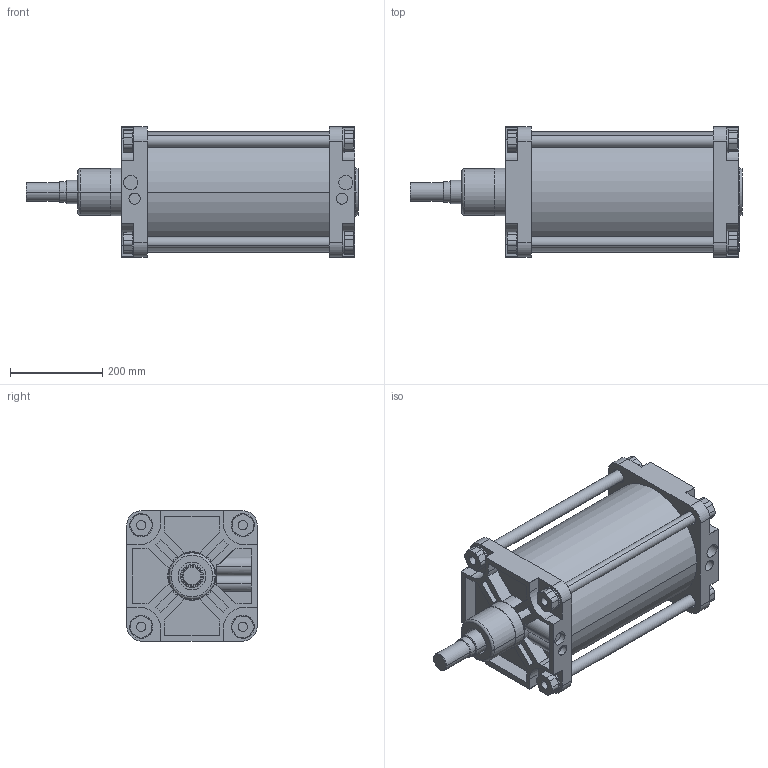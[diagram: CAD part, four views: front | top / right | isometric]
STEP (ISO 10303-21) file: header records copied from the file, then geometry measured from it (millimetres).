
FILE_DESCRIPTION(('CATIA V5 STEP Exchange'),'2;1');
FILE_NAME('D:\stp file for catalog\PNC\250\PNC 250-50-300.stp','2015-10-25T14:08:19+00:00',('none'),('none'),'Version 5-6 Release 2012','CATIA V5 STEP AP203','none');
FILE_SCHEMA(('CONFIG_CONTROL_DESIGN'));
Length unit declared in the file: millimetre
Products named in the file (1): PNC 250-50-300-00
Assembly tree (2 placements, depth 2):
  PNC 250-50-300-00
    #58
    #15305
Bounding box: 718 x 282 x 282 mm (x, y, z)
Volume: 11729595.9 mm3; surface area: 1630712.8 mm2
Topology: 2 solids, 2 shells, 556 faces, 1428 edges, 944 vertices
Faces by surface type: plane 316, cylinder 196, cone 42, torus 2
Entity records: 15751 total; most frequent: CARTESIAN_POINT 3340, ORIENTED_EDGE 2856, DIRECTION 1929, EDGE_CURVE 1428, VERTEX_POINT 944, VECTOR 904, LINE 904, AXIS2_PLACEMENT_3D 718
